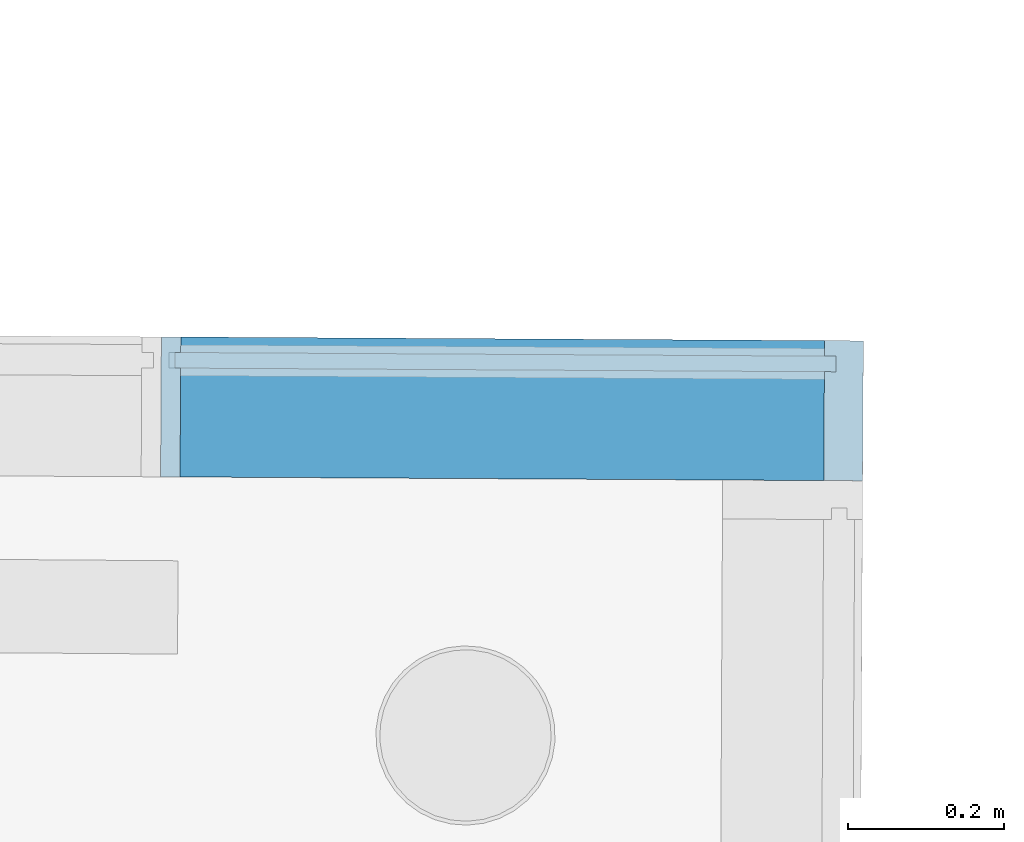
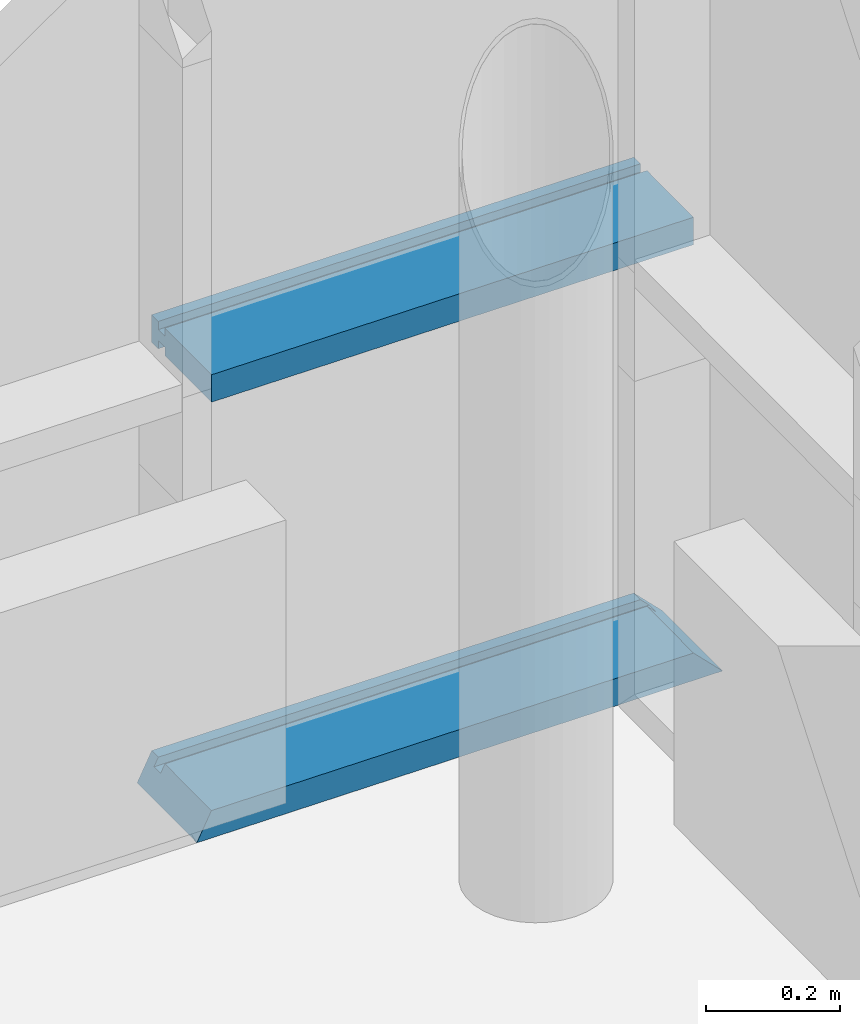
# One storey, part 186 of 196: 2 building element parts, 1 element without a shape of its own.
"""IFC2X3 building model written with IfcOpenShell, lengths in metres."""

from ifc_helpers import new_model, entity, si_unit, converted_unit, derived_unit, money_unit, direction, frame, origin_with_axes, place, context, subcontext, project, spatial, faceted_brep, material, type_object, element, aggregate, save


model = new_model("IFC2X3")

# Units and contexts
model_context = context("Model", 3, precision=1e-05, world=origin_with_axes(), true_north=direction((0.0, 1.0)))
body_context = subcontext(model_context, "Body", "Model", "MODEL_VIEW")
ifc_project = project(units=[si_unit("LENGTHUNIT", "METRE"), si_unit("AREAUNIT", "SQUARE_METRE"), si_unit("VOLUMEUNIT", "CUBIC_METRE"), converted_unit("PLANEANGLEUNIT", "DEGREE", entity("IfcPlaneAngleMeasure", 0.0174532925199), si_unit("PLANEANGLEUNIT", "RADIAN"), dimensions=[0, 0, 0, 0, 0, 0, 0]), money_unit("EUR"), converted_unit("TIMEUNIT", "Year", entity("IfcTimeMeasure", 31556926.0), si_unit("TIMEUNIT", "SECOND"), dimensions=[0, 0, 1, 0, 0, 0, 0]), si_unit("MASSUNIT", "GRAM", prefix="KILO"), si_unit("THERMODYNAMICTEMPERATUREUNIT", "DEGREE_CELSIUS"), si_unit("LUMINOUSINTENSITYUNIT", "LUMEN"), si_unit("ENERGYUNIT", "JOULE", prefix="MEGA"), derived_unit("THERMALCONDUCTANCEUNIT", [(si_unit("POWERUNIT", "WATT"), 1), (si_unit("LENGTHUNIT", "METRE"), -1), (si_unit("THERMODYNAMICTEMPERATUREUNIT", "KELVIN"), -1)]), derived_unit("SPECIFICHEATCAPACITYUNIT", [(si_unit("ENERGYUNIT", "JOULE"), 1), (si_unit("MASSUNIT", "GRAM", prefix="KILO"), -1), (si_unit("THERMODYNAMICTEMPERATUREUNIT", "KELVIN"), -1)]), derived_unit("MASSDENSITYUNIT", [(si_unit("MASSUNIT", "GRAM", prefix="KILO"), 1), (si_unit("VOLUMEUNIT", "CUBIC_METRE"), -1)])], contexts=[model_context])

# Site, building, storey
site_placement = place(None, origin_with_axes())
site = spatial("IfcSite", under=ifc_project, at=site_placement, Name="Gelände", CompositionType="ELEMENT")
building_placement = place(site_placement, origin_with_axes())
building = spatial("IfcBuilding", under=site, at=building_placement, Name="Gebäude", CompositionType="ELEMENT")
storey_placement = place(building_placement, frame((0.0, 0.0, -3.0), z_axis=(0.0, 0.0, 1.0), x_axis=(1.0, 0.0, 0.0)))
storey = spatial("IfcBuildingStorey", under=building, at=storey_placement, Name="KELLERGESCHOSS", CompositionType="ELEMENT", Elevation=-3.0)

# Proxy, building element parts
building_element_proxy_type = type_object("IfcBuildingElementProxyType", Name="Fassadentyp", PredefinedType="NOTDEFINED")
proxy_placement = place(storey_placement, frame((8.78139895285, 45.8579301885, 0.610000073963), z_axis=(0.0, 0.0, 1.0), x_axis=(1.0, 0.0, 0.0)))
proxy = element("IfcBuildingElementProxy", 1, at=proxy_placement, inside=storey, type_object=building_element_proxy_type, Name="Fassade-002")
ifc_material = material(Name="53_Metall, Aluminium")
building_element_part_1_placement = place(proxy_placement, origin_with_axes())
building_element_part_1 = element("IfcBuildingElementPart", 2, at=building_element_part_1_placement, material=ifc_material, Name="53_Metall, Aluminium", context=body_context, shape_type="Brep", body=[
    faceted_brep([(-0.426445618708, -0.007598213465, 0.808683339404), (-0.426445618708, -0.007598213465, 0.793683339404), (-0.427234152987, -0.147595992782, 0.793683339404), (-0.427234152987, -0.147595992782, 0.843683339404), (-0.426445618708, -0.007598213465, 0.843683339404), (-0.426445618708, -0.007598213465, 0.828683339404), (-0.426332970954, 0.0124014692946, 0.828683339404), (-0.426332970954, 0.0124014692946, 0.843683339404), (-0.4262203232, 0.0324011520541, 0.843683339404), (-0.4262203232, 0.0324011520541, 0.793683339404), (-0.426332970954, 0.0124014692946, 0.793683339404), (-0.426332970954, 0.0124014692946, 0.808683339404), (0.401333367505, -0.012260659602, 0.808683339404), (0.401333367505, -0.012260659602, 0.793683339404), (0.400544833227, -0.152258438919, 0.793683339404), (0.400544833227, -0.152258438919, 0.843683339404), (0.401333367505, -0.012260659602, 0.843683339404), (0.401333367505, -0.012260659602, 0.828683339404), (0.401446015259, 0.00773902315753, 0.828683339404), (0.401446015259, 0.00773902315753, 0.843683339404), (0.401558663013, 0.0277387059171, 0.843683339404), (0.401558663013, 0.0277387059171, 0.793683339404), (0.401446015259, 0.00773902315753, 0.793683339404), (0.401446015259, 0.00773902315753, 0.808683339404)], [[[0, 1, 2, 3, 4, 5, 6, 7, 8, 9, 10, 11]], [[1, 0, 12, 13]], [[1, 13, 14, 2]], [[2, 14, 15, 3]], [[4, 3, 15, 16]], [[4, 16, 17, 5]], [[5, 17, 18, 6]], [[7, 6, 18, 19]], [[19, 20, 8, 7]], [[8, 20, 21, 9]], [[22, 10, 9, 21]], [[11, 10, 22, 23]], [[0, 11, 23, 12]], [[23, 22, 21, 20, 19, 18, 17, 16, 15, 14, 13, 12]]]),
])
building_element_part_2_placement = place(proxy_placement, origin_with_axes())
building_element_part_2 = element("IfcBuildingElementPart", 3, at=building_element_part_2_placement, material=ifc_material, Name="53_Metall, Aluminium", context=body_context, shape_type="Brep", body=[
    faceted_brep([(-0.433945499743, -0.00755597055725, 0.035), (-0.433832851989, 0.0124437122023, 0.035), (-0.426332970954, 0.0124014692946, 0.05), (-0.4262203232, 0.0324011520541, 0.05), (-0.45121992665, 0.0325419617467, 0.0), (-0.452233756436, -0.147455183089, 0.0), (-0.427234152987, -0.147595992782, 0.05), (-0.426445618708, -0.007598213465, 0.05), (0.416333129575, -0.0123451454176, 0.035), (0.416445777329, 0.00765453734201, 0.035), (0.401446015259, 0.00773902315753, 0.05), (0.401558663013, 0.0277387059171, 0.05), (0.451557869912, 0.027457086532, 0.0), (0.450544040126, -0.152540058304, 0.0), (0.400544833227, -0.152258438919, 0.05), (0.401333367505, -0.012260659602, 0.05)], [[[0, 1, 2, 3, 4, 5, 6, 7]], [[1, 0, 8, 9]], [[10, 2, 1, 9]], [[2, 10, 11, 3]], [[4, 3, 11, 12]], [[5, 4, 12, 13]], [[6, 5, 13, 14]], [[15, 7, 6, 14]], [[0, 7, 15, 8]], [[8, 15, 14, 13, 12, 11, 10, 9]]]),
])
aggregate(proxy, [building_element_part_1, building_element_part_2])

save(model, "model.ifc")
